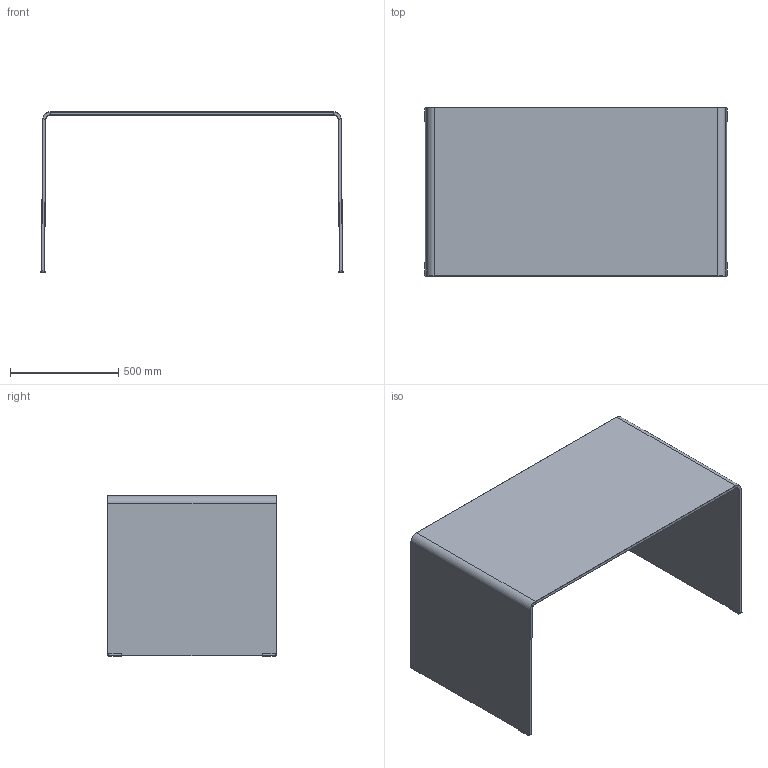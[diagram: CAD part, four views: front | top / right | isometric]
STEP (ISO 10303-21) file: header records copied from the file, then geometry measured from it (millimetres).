
FILE_DESCRIPTION((''),'2;1');
FILE_NAME('C:\AutodeskVault\AreaLavoro\Progetti\SoVeT Italia\1. Tavoli_Dining tables\Order\Web file\Order Web\P1211.stp','2012-05-09T10:13:46',('Gianluca'),('So.Ve.T. s.r.l.'),'Autodesk Inventor 2011','Autodesk Inventor 2011','IL PROGETTO E'' DI ESCLUSIVA PROPRIETA'' DELLA SO.VE.T. srl. E'' VIETATA OGNI RIPRODUZIONE TOTALE O PARZIALE E QUALSIASI UTILIZZO NON AUTORIZZATO.');
FILE_SCHEMA(('AUTOMOTIVE_DESIGN { 1 0 10303 214 1 1 1 1 }'));
Length unit declared in the file: millimetre
Products named in the file (1): P1211 Contorno semplificato
Bounding box: 1397.11 x 780 x 741.31 mm (x, y, z)
Volume: 32847508.4 mm3; surface area: 4492054.4 mm2
Topology: 1 solids, 1 shells, 134 faces, 344 edges, 208 vertices
Faces by surface type: plane 78, cylinder 40, cone 16
Entity records: 4189 total; most frequent: DIRECTION 710, ORIENTED_EDGE 688, CARTESIAN_POINT 687, EDGE_CURVE 344, VECTOR 248, LINE 248, AXIS2_PLACEMENT_3D 231, VERTEX_POINT 208
